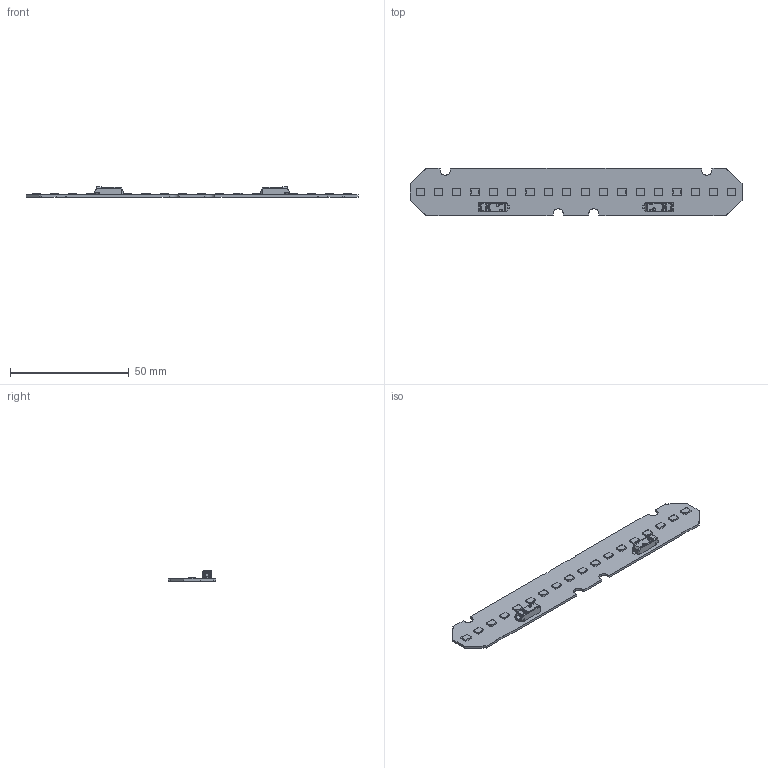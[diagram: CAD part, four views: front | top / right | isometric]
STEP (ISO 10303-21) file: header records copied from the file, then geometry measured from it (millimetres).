
FILE_DESCRIPTION(/* description */ ('Unknown'),/* implementation_level */ '2;1');
FILE_NAME(/* name */ 'LinLED 1100lm per 1ft 2C 140x20',/* time_stamp */ '2023-05-10T15:08:37+02:00',/* author */ ('Unknown'),/* organization */ ('Unknown'),/* preprocessor_version */ 'ST-DEVELOPER v18.102',/* originating_system */ 'Solid Edge',/* authorisation */ 'Unknown');
FILE_SCHEMA (('AUTOMOTIVE_DESIGN {1 0 10303 214 3 1 1}'));
Length unit declared in the file: millimetre
Products named in the file (1): LinLED 1100lm per 1ft 2C 140x20
Bounding box: 139.6 x 20 x 4.45 mm (x, y, z)
Volume: 3008.9 mm3; surface area: 6203.3 mm2
Topology: 1 solids, 1 shells, 806 faces, 2098 edges, 1330 vertices
Faces by surface type: plane 504, cylinder 146, torus 64, cone 50, bspline 26, sphere 16
Entity records: 31038 total; most frequent: CARTESIAN_POINT 6461, ORIENTED_EDGE 4148, DIRECTION 3492, EDGE_CURVE 2074, LINE 1434, VECTOR 1434, VERTEX_POINT 1324, AXIS2_PLACEMENT_3D 1029
